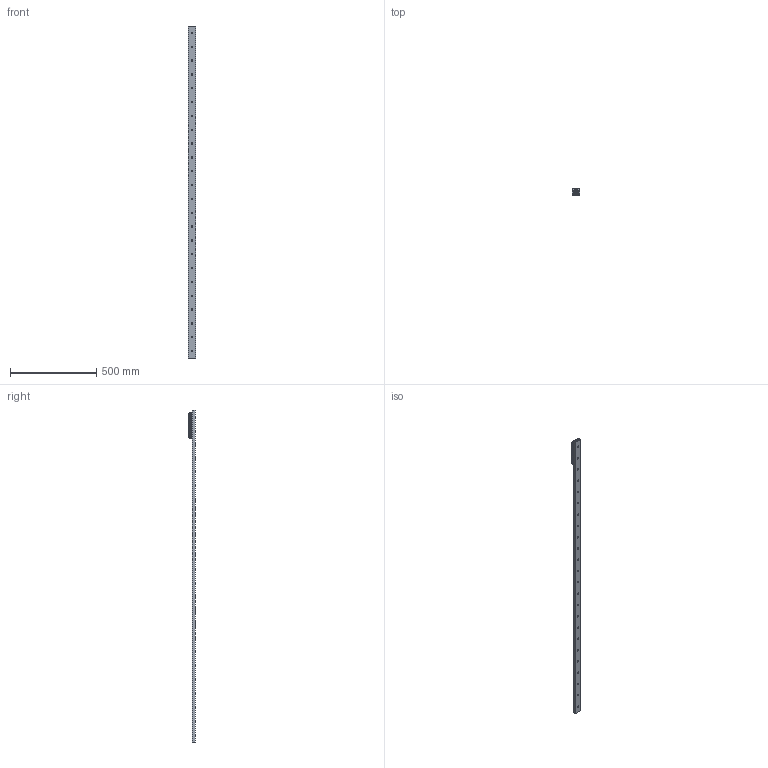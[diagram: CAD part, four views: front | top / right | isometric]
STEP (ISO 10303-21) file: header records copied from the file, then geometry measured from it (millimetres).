
FILE_DESCRIPTION( ( 'STEP AP214' ), '1' );
FILE_NAME( 'p:/temp/worker_34/temp/exporttempdir_3788_125_Iq8Zf/format_1/TGV-01920_1_RV43G-3.stp', '2021-06-09T19:33:06', ( 'License CC BY-ND 4.0' ), ( 'CADENAS' ), ' ', 'PARTsolutions', ' ' );
FILE_SCHEMA( ( 'AUTOMOTIVE_DESIGN { 1 0 10303 214 1 1 1 1 }' ) );
Length unit declared in the file: millimetre
Products named in the file (6): TGV-01920/1/RV43G-3; _TGV43-1920-(3-1); _RVG43-3-slider; _RGNV43R; _RGAV43R; _WR43G-01
Assembly tree (7 placements, depth 2):
  TGV-01920/1/RV43G-3
    _TGV43-1920-(3-1)
    _RVG43-3-slider
    _RGNV43R  x2
    _RGAV43R
    _WR43G-01  x2
Bounding box: 43 x 37 x 1920 mm (x, y, z)
Volume: 823806.3 mm3; surface area: 331234.7 mm2
Topology: 7 solids, 7 shells, 1089 faces, 2844 edges, 1851 vertices
Faces by surface type: plane 663, cylinder 320, cone 63, bspline 34, torus 9
Full cylindrical faces by diameter (mm): 1.76 x4, 3 x8, 6 x4, 6.647 x4, 6.8 x3, 8 x3, 8.5 x24, 11 x11, 15 x6, 15.5 x1, 18.98 x2, 19 x1, 31.4 x6
Entity records: 26173 total; most frequent: CARTESIAN_POINT 4118, DIRECTION 3507, ORIENTED_EDGE 3208, EDGE_CURVE 1604, AXIS2_PLACEMENT_3D 1350, VERTEX_POINT 1123, EDGE_LOOP 941, LINE 807
